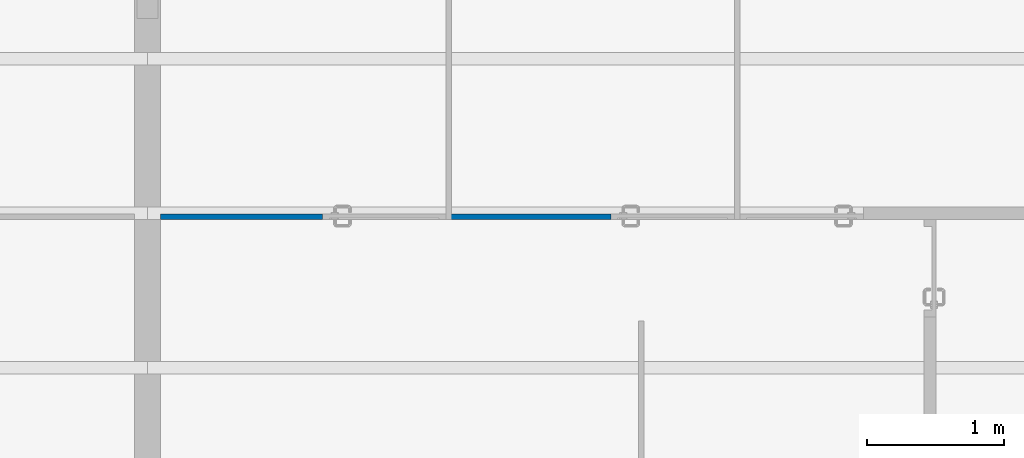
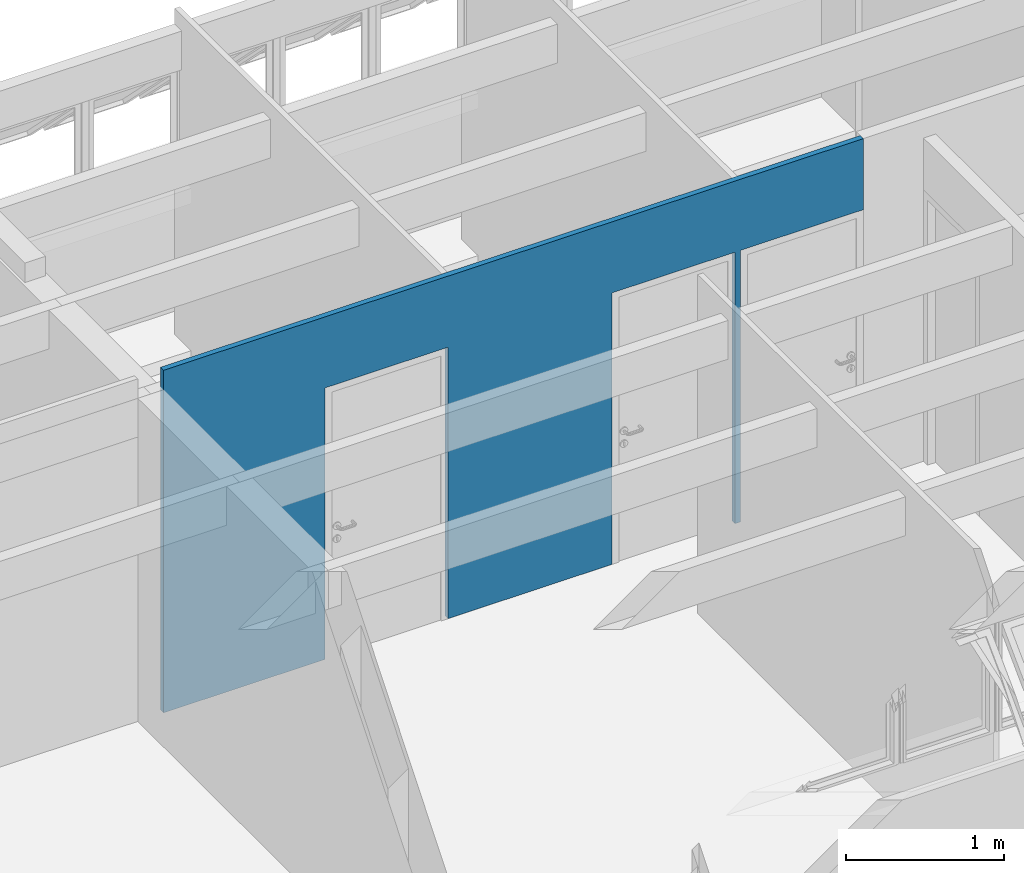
# One storey, part 38 of 40: 1 wall, 3 openings.
"""IFC4 building model written with IfcOpenShell, lengths in millimetres."""

from ifc_helpers import new_model, entity, si_unit, converted_unit, derived_unit, direction, frame, origin_with_axes, origin_2d_with_axis, place, context, subcontext, project, spatial, line, indexed_curve, rectangle, outline, extrude, material, layer, layer_set, layer_usage, type_object, element, save


model = new_model("IFC4")

# Units and contexts
model_context = context("Model", 3, precision=0.01, world=origin_with_axes(), true_north=direction((0.0, 1.0)))
body_context = subcontext(model_context, "Body", "Model", "MODEL_VIEW")
ifc_project = project(units=[si_unit("LENGTHUNIT", "METRE", prefix="MILLI"), si_unit("AREAUNIT", "SQUARE_METRE"), si_unit("VOLUMEUNIT", "CUBIC_METRE"), converted_unit("PLANEANGLEUNIT", "DEGREE", entity("IfcPlaneAngleMeasure", 0.0174532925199), si_unit("PLANEANGLEUNIT", "RADIAN"), dimensions=[0, 0, 0, 0, 0, 0, 0]), converted_unit("TIMEUNIT", "Year", entity("IfcTimeMeasure", 31556926.0), si_unit("TIMEUNIT", "SECOND"), dimensions=[0, 0, 1, 0, 0, 0, 0]), si_unit("MASSUNIT", "GRAM", prefix="KILO"), si_unit("THERMODYNAMICTEMPERATUREUNIT", "DEGREE_CELSIUS"), si_unit("LUMINOUSINTENSITYUNIT", "LUMEN"), si_unit("ENERGYUNIT", "JOULE", prefix="MEGA"), derived_unit("THERMALCONDUCTANCEUNIT", [(si_unit("POWERUNIT", "WATT"), 1), (si_unit("LENGTHUNIT", "METRE"), -1), (si_unit("THERMODYNAMICTEMPERATUREUNIT", "KELVIN"), -1)]), derived_unit("SPECIFICHEATCAPACITYUNIT", [(si_unit("ENERGYUNIT", "JOULE"), 1), (si_unit("MASSUNIT", "GRAM", prefix="KILO"), -1), (si_unit("THERMODYNAMICTEMPERATUREUNIT", "KELVIN"), -1)]), derived_unit("MASSDENSITYUNIT", [(si_unit("MASSUNIT", "GRAM", prefix="KILO"), 1), (si_unit("VOLUMEUNIT", "CUBIC_METRE"), -1)])], contexts=[model_context])

# Site, building, storey
site_placement = place(None, origin_with_axes())
site = spatial("IfcSite", under=ifc_project, at=site_placement, Name="Local", CompositionType="ELEMENT")
building_placement = place(site_placement, origin_with_axes())
building = spatial("IfcBuilding", under=site, at=building_placement, Name="Construção", CompositionType="ELEMENT")
storey_placement = place(building_placement, frame((0.0, 0.0, 5300.0), z_axis=(0.0, 0.0, 1.0), x_axis=(1.0, 0.0, 0.0)))
storey = spatial("IfcBuildingStorey", under=building, at=storey_placement, Name="Terceiro Pavimento", CompositionType="ELEMENT", Elevation=5300.0)

# Wall, openings
ifc_material = material(Name="GENÉRICO - VEDAÇÃO EXTERNA")
ifc_layer = layer(ifc_material, 40.0, ventilated="UNKNOWN", Name="GENÉRICO - VEDAÇÃO EXTERNA")
ifc_layer_set = layer_set([ifc_layer], Name="GENÉRICO - VEDAÇÃO EXTERNA 40")
ifc_layer_usage = layer_usage(ifc_layer_set, "AXIS2", "NEGATIVE", 0.0)
wall_type = type_object("IfcWallType", Name="GENÉRICO - VEDAÇÃO EXTERNA 40", PredefinedType="NOTDEFINED")
wall_placement = place(storey_placement, frame((12600.0, 22394.7804333, 0.0), z_axis=(0.0, 0.0, 1.0), x_axis=(-0.99999999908, 4.28841203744e-05, 0.0)))
wall = element("IfcWall", 1, at=wall_placement, inside=storey, type_object=wall_type, material=ifc_layer_usage, Name="APTO12-PAREDE-006", PredefinedType="NOTDEFINED", context=body_context, shape_type="SweptSolid", body=[
    extrude(outline(indexed_curve([(0.00085768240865, -40.0), (5120.00172007, -40.0), (5120.00000471, 0.0), (0.0, 0.0)], segments=[line(1, 2, 3, 4, 1)])), origin_with_axes(), (0.0, 0.0, 1.0), 2650.0),
])
opening_1_placement = place(wall_placement, frame((1390.00000471, 0.0, 0.0), z_axis=(0.0, 0.0, 1.0), x_axis=(1.0, 0.0, 0.0)))
element("IfcOpeningElement", 2, at=opening_1_placement, cuts=wall, Name="APTO12-PORTA-002", context=body_context, shape_type="SweptSolid", body=[
    extrude(rectangle(XDim=900.0, YDim=2100.0, at=origin_2d_with_axis()), frame((0.0, -40.0, 1050.0), z_axis=(0.0, 1.0, 0.0), x_axis=(-1.0, 0.0, 0.0)), (0.0, 0.0, 1.0), 120.0),
])
opening_2_placement = place(wall_placement, frame((450.000004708, 0.0, 0.0), z_axis=(0.0, 0.0, 1.0), x_axis=(1.0, 0.0, 0.0)))
element("IfcOpeningElement", 3, at=opening_2_placement, cuts=wall, Name="APTO12-PORTA-001", context=body_context, shape_type="SweptSolid", body=[
    extrude(rectangle(XDim=900.0, YDim=2100.0, at=origin_2d_with_axis()), frame((0.0, -40.0, 1050.0), z_axis=(0.0, -1.0, 0.0), x_axis=(1.0, 0.0, 0.0)), (0.0, 0.0, -1.0), 120.0),
])
opening_3_placement = place(wall_placement, frame((3490.00000471, 0.0, 0.0), z_axis=(0.0, 0.0, 1.0), x_axis=(1.0, 0.0, 0.0)))
element("IfcOpeningElement", 4, at=opening_3_placement, cuts=wall, Name="APTO12-PORTA-000", context=body_context, shape_type="SweptSolid", body=[
    extrude(rectangle(XDim=900.0, YDim=2100.0, at=origin_2d_with_axis()), frame((0.0, -40.0, 1050.0), z_axis=(0.0, 1.0, 0.0), x_axis=(-1.0, 0.0, 0.0)), (0.0, 0.0, 1.0), 120.0),
])

save(model, "model.ifc")
